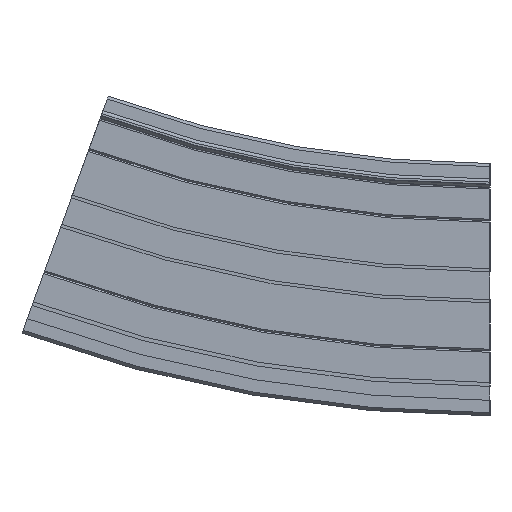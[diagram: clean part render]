
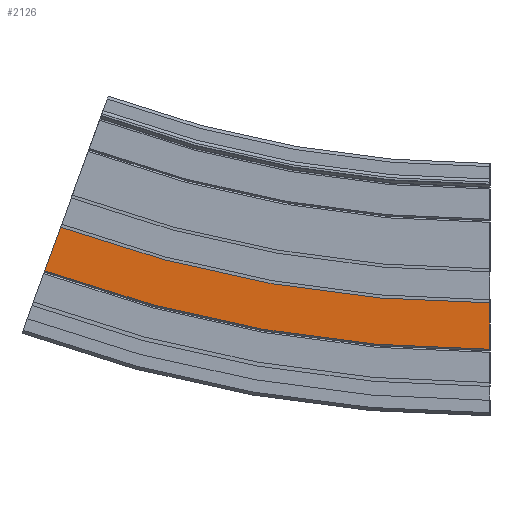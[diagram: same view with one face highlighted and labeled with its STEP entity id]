
A CAD part, left-side view. The second image highlights one B-rep face of the part: STEP entity #2126.
In plain terms, the highlighted planar face has unit normal (-1, 0, 0).
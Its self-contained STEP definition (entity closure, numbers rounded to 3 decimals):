
#214=CIRCLE('',#2314,405.5);
#215=CIRCLE('',#2316,420.5);
#325=FACE_OUTER_BOUND('',#443,.T.);
#443=EDGE_LOOP('',(#1725,#1726,#1727,#1728));
#593=LINE('',#8168,#771);
#594=LINE('',#8170,#772);
#771=VECTOR('',#2772,10.);
#772=VECTOR('',#2773,10.);
#983=VERTEX_POINT('',#8161);
#984=VERTEX_POINT('',#8163);
#985=VERTEX_POINT('',#8167);
#986=VERTEX_POINT('',#8169);
#1271=EDGE_CURVE('',#983,#984,#214,.T.);
#1272=EDGE_CURVE('',#985,#983,#593,.T.);
#1273=EDGE_CURVE('',#986,#984,#594,.T.);
#1274=EDGE_CURVE('',#985,#986,#215,.T.);
#1725=ORIENTED_EDGE('',*,*,#1272,.T.);
#1726=ORIENTED_EDGE('',*,*,#1271,.T.);
#1727=ORIENTED_EDGE('',*,*,#1273,.F.);
#1728=ORIENTED_EDGE('',*,*,#1274,.F.);
#2030=PLANE('',#2315);
#2126=ADVANCED_FACE('',(#325),#2030,.T.);
#2314=AXIS2_PLACEMENT_3D('',#8165,#2768,#2769);
#2315=AXIS2_PLACEMENT_3D('',#8166,#2770,#2771);
#2316=AXIS2_PLACEMENT_3D('',#8171,#2774,#2775);
#2768=DIRECTION('center_axis',(1.,0.,0.));
#2769=DIRECTION('ref_axis',(0.,0.,-1.));
#2770=DIRECTION('center_axis',(-1.,0.,0.));
#2771=DIRECTION('ref_axis',(0.,0.,1.));
#2772=DIRECTION('',(0.,0.,1.));
#2773=DIRECTION('',(0.,-0.342,0.94));
#2774=DIRECTION('center_axis',(1.,0.,0.));
#2775=DIRECTION('ref_axis',(0.,0.,
-1.));
#8161=CARTESIAN_POINT('',(-112.,0.,-5.5));
#8163=CARTESIAN_POINT('',(-112.,138.689,18.955));
#8165=CARTESIAN_POINT('Origin',(-112.,0.,
400.));
#8166=CARTESIAN_POINT('Origin',(-112.,0.,-20.5));
#8167=CARTESIAN_POINT('',(-112.,0.,-20.5));
#8168=CARTESIAN_POINT('',(-112.,0.,-20.5));
#8169=CARTESIAN_POINT('',(-112.,143.819,4.86));
#8170=CARTESIAN_POINT('',(-112.,143.819,4.86));
#8171=CARTESIAN_POINT('Origin',(-112.,0.,
400.));
